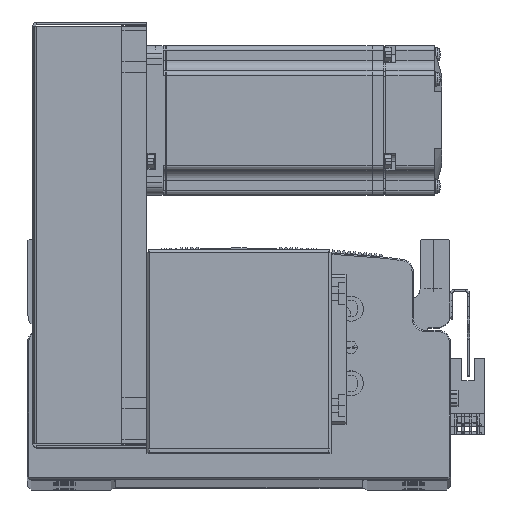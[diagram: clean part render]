
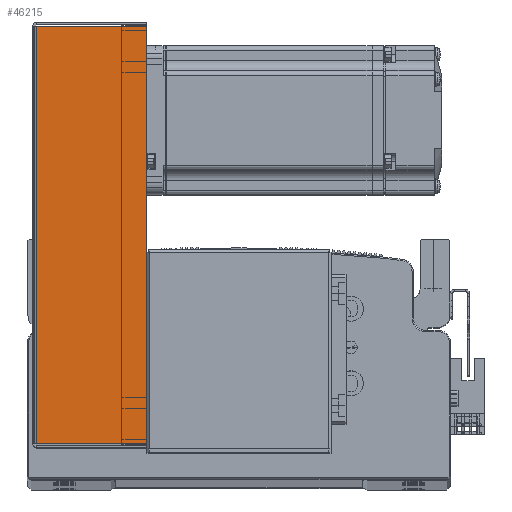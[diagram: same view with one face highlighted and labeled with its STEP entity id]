
A CAD part, top view. The second image highlights one B-rep face of the part: STEP entity #46215.
In plain terms, the highlighted planar face has unit normal (0, 0, 1) as drawn and (0, 0, -1) by its records, which use the part's own axes.
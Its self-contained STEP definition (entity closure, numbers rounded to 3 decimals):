
#14459 = PLANE ( 'NONE',  #25315 ) ;
#14462 = CARTESIAN_POINT ( 'NONE',  ( 0., 0., -40.5 ) ) ;
#14464 = DIRECTION ( 'NONE',  ( 0., 0., 1. ) ) ;
#14466 = DIRECTION ( 'NONE',  ( 0., -1., 0. ) ) ;
#14687 = FACE_OUTER_BOUND ( 'NONE', #52152, .T. ) ;
#22217 = EDGE_CURVE ( 'NONE', #33055, #33104, #84248, .T. ) ;
#25315 = AXIS2_PLACEMENT_3D ( 'NONE', #14462, #14464, #14466 ) ;
#28235 = CARTESIAN_POINT ( 'NONE',  ( 83.793, 45., -40.5 ) ) ;
#28373 = CARTESIAN_POINT ( 'NONE',  ( -83.793, 0.737, -40.5 ) ) ;
#33055 = VERTEX_POINT ( 'NONE', #36195 ) ;
#33073 = VERTEX_POINT ( 'NONE', #49581 ) ;
#33087 = VERTEX_POINT ( 'NONE', #28373 ) ;
#33104 = VERTEX_POINT ( 'NONE', #28235 ) ;
#36195 = CARTESIAN_POINT ( 'NONE',  ( -83.793, 45., -40.5 ) ) ;
#45915 = LINE ( 'NONE', #48477, #45967 ) ;
#45967 = VECTOR ( 'NONE', #48474, 1000. ) ;
#46072 = LINE ( 'NONE', #48644, #46086 ) ;
#46086 = VECTOR ( 'NONE', #48669, 1000. ) ;
#46101 = LINE ( 'NONE', #48617, #46140 ) ;
#46140 = VECTOR ( 'NONE', #48605, 1000. ) ;
#46215 = ADVANCED_FACE ( 'NONE', ( #14687 ), #14459, .F. ) ;
#48474 = DIRECTION ( 'NONE',  ( 1., 0., 0. ) ) ;
#48477 = CARTESIAN_POINT ( 'NONE',  ( 0., 0.737, -40.5 ) ) ;
#48605 = DIRECTION ( 'NONE',  ( 0., 1., 0. ) ) ;
#48617 = CARTESIAN_POINT ( 'NONE',  ( -83.793, 0., -40.5 ) ) ;
#48644 = CARTESIAN_POINT ( 'NONE',  ( 83.793, 0., -40.5 ) ) ;
#48669 = DIRECTION ( 'NONE',  ( 0., 1., 0. ) ) ;
#49581 = CARTESIAN_POINT ( 'NONE',  ( 83.793, 0.737, -40.5 ) ) ;
#52152 = EDGE_LOOP ( 'NONE', ( #55629, #55579, #55479, #55431 ) ) ;
#55431 = ORIENTED_EDGE ( 'NONE', *, *, #72465, .F. ) ;
#55479 = ORIENTED_EDGE ( 'NONE', *, *, #22217, .T. ) ;
#55579 = ORIENTED_EDGE ( 'NONE', *, *, #72446, .T. ) ;
#55629 = ORIENTED_EDGE ( 'NONE', *, *, #72400, .F. ) ;
#72400 = EDGE_CURVE ( 'NONE', #33087, #33073, #45915, .T. ) ;
#72446 = EDGE_CURVE ( 'NONE', #33087, #33055, #46101, .T. ) ;
#72465 = EDGE_CURVE ( 'NONE', #33073, #33104, #46072, .T. ) ;
#80992 = DIRECTION ( 'NONE',  ( 1., 0., 0. ) ) ;
#81031 = CARTESIAN_POINT ( 'NONE',  ( 84.5, 45., -40.5 ) ) ;
#84248 = LINE ( 'NONE', #81031, #84254 ) ;
#84254 = VECTOR ( 'NONE', #80992, 1000. ) ;
